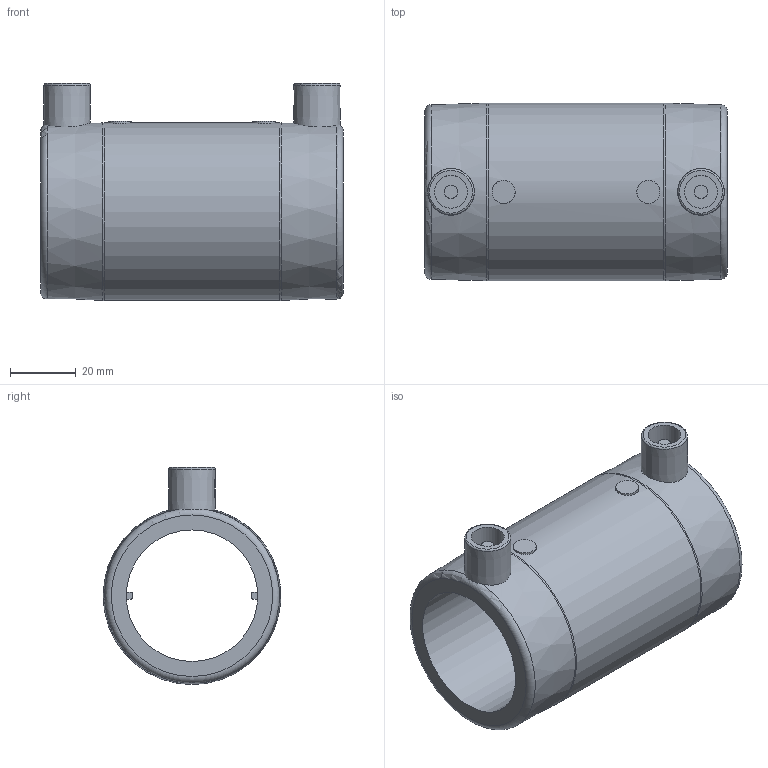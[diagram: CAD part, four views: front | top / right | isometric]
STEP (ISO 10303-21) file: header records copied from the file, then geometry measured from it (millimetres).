
FILE_DESCRIPTION(/* description */ ('Unknown'),/* implementation_level */ '2;1');
FILE_NAME(/* name */ 'MP040C',/* time_stamp */ '2021-02-10T15:13:38+01:00',/* author */ ('Unknown'),/* organization */ ('Unknown'),/* preprocessor_version */ 'ST-DEVELOPER v16.7',/* originating_system */ 'Solid Edge',/* authorisation */ 'Unknown');
FILE_SCHEMA (('AUTOMOTIVE_DESIGN {1 0 10303 214 3 1 1}'));
Length unit declared in the file: millimetre
Products named in the file (1): MP040C
Bounding box: 92 x 54 x 66 mm (x, y, z)
Volume: 95525.8 mm3; surface area: 30867 mm2
Topology: 1 solids, 1 shells, 42 faces, 95 edges, 63 vertices
Faces by surface type: plane 20, cylinder 12, torus 6, cone 4
Full cylindrical faces by diameter (mm): 4 x2, 7 x2, 10 x2, 40 x1, 54 x1
Entity records: 1072 total; most frequent: CARTESIAN_POINT 213, DIRECTION 182, ORIENTED_EDGE 132, AXIS2_PLACEMENT_3D 79, EDGE_LOOP 70, FACE_BOUND 70, EDGE_CURVE 66, VERTEX_POINT 52
